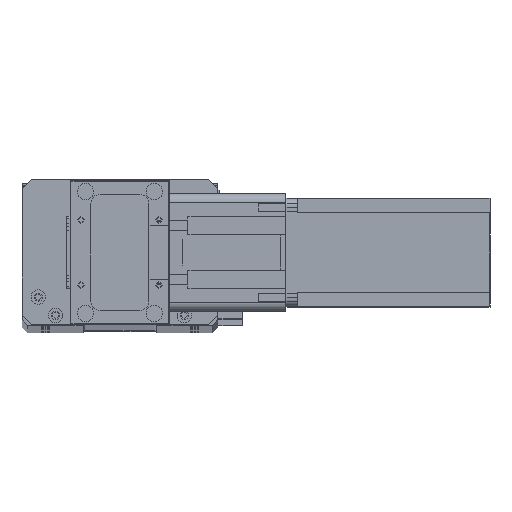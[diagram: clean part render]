
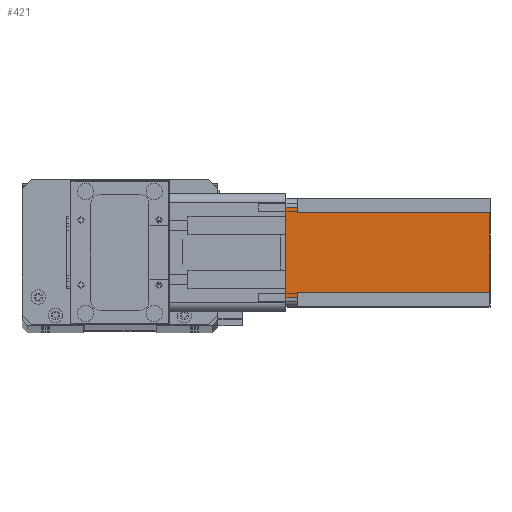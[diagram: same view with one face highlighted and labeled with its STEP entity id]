
A CAD part, top view. The second image highlights one B-rep face of the part: STEP entity #421.
In plain terms, the highlighted planar face has unit normal (0, 0, 1) as drawn and (0, 1, 0) by its records, which use the part's own axes.
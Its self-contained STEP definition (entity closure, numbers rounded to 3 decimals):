
#421 = ADVANCED_FACE ( 'NONE', ( #650 ), #4034, .T. ) ;
#650 = FACE_OUTER_BOUND ( 'NONE', #15040, .T. ) ;
#776 = DIRECTION ( 'NONE',  ( 0., 0., -1. ) ) ;
#1224 = CARTESIAN_POINT ( 'NONE',  ( 55., 60., -6.5 ) ) ;
#2756 = CARTESIAN_POINT ( 'NONE',  ( 52., 60., -6.5 ) ) ;
#2946 = DIRECTION ( 'NONE',  ( 0., 0., 1. ) ) ;
#3009 = ORIENTED_EDGE ( 'NONE', *, *, #17855, .F. ) ;
#3097 = CARTESIAN_POINT ( 'NONE',  ( 55., 60., -112.5 ) ) ;
#3140 = CARTESIAN_POINT ( 'NONE',  ( 0., 60., -112.5 ) ) ;
#3142 = CARTESIAN_POINT ( 'NONE',  ( 8., 60., -6.5 ) ) ;
#3594 = VECTOR ( 'NONE', #26627, 1000. ) ;
#4034 = PLANE ( 'NONE',  #10907 ) ;
#5376 = VERTEX_POINT ( 'NONE', #26394 ) ;
#5839 = DIRECTION ( 'NONE',  ( 0., 0., -1. ) ) ;
#6427 = VECTOR ( 'NONE', #29746, 1000. ) ;
#6450 = CARTESIAN_POINT ( 'NONE',  ( 52., 60., -6.5 ) ) ;
#6461 = LINE ( 'NONE', #22129, #12628 ) ;
#6904 = ORIENTED_EDGE ( 'NONE', *, *, #27283, .F. ) ;
#7791 = LINE ( 'NONE', #28537, #18714 ) ;
#8412 = DIRECTION ( 'NONE',  ( 0., 1., 0. ) ) ;
#8893 = CARTESIAN_POINT ( 'NONE',  ( 0., 60., -112.5 ) ) ;
#10008 = EDGE_CURVE ( 'NONE', #10367, #18753, #19665, .T. ) ;
#10222 = VECTOR ( 'NONE', #12820, 1000. ) ;
#10367 = VERTEX_POINT ( 'NONE', #21402 ) ;
#10485 = CARTESIAN_POINT ( 'NONE',  ( 5., 60., -6.5 ) ) ;
#10574 = ORIENTED_EDGE ( 'NONE', *, *, #13947, .F. ) ;
#10907 = AXIS2_PLACEMENT_3D ( 'NONE', #3140, #8412, #2946 ) ;
#10992 = VERTEX_POINT ( 'NONE', #2756 ) ;
#11197 = VERTEX_POINT ( 'NONE', #1224 ) ;
#11685 = CARTESIAN_POINT ( 'NONE',  ( 5., 60., 0. ) ) ;
#11870 = LINE ( 'NONE', #8893, #17368 ) ;
#11986 = EDGE_CURVE ( 'NONE', #18753, #15599, #7791, .T. ) ;
#12590 = LINE ( 'NONE', #6450, #6427 ) ;
#12628 = VECTOR ( 'NONE', #5839, 1000. ) ;
#12820 = DIRECTION ( 'NONE',  ( 0., 0., 1. ) ) ;
#13947 = EDGE_CURVE ( 'NONE', #17792, #10992, #28779, .T. ) ;
#15040 = EDGE_LOOP ( 'NONE', ( #27072, #24355, #3009, #10574, #21770, #6904, #22475, #27206 ) ) ;
#15599 = VERTEX_POINT ( 'NONE', #11685 ) ;
#16479 = EDGE_CURVE ( 'NONE', #5376, #15599, #23617, .T. ) ;
#16562 = VERTEX_POINT ( 'NONE', #17666 ) ;
#16955 = DIRECTION ( 'NONE',  ( 0., 0., 1. ) ) ;
#17066 = EDGE_CURVE ( 'NONE', #5376, #11197, #18459, .T. ) ;
#17270 = CARTESIAN_POINT ( 'NONE',  ( 0., 60., 0. ) ) ;
#17368 = VECTOR ( 'NONE', #20576, 1000. ) ;
#17666 = CARTESIAN_POINT ( 'NONE',  ( 8., 60., -112.5 ) ) ;
#17792 = VERTEX_POINT ( 'NONE', #24900 ) ;
#17855 = EDGE_CURVE ( 'NONE', #10992, #11197, #12590, .T. ) ;
#17897 = EDGE_CURVE ( 'NONE', #17792, #16562, #11870, .T. ) ;
#18459 = LINE ( 'NONE', #3097, #30083 ) ;
#18714 = VECTOR ( 'NONE', #16955, 1000. ) ;
#18753 = VERTEX_POINT ( 'NONE', #10485 ) ;
#19400 = DIRECTION ( 'NONE',  ( -1., 0., 0. ) ) ;
#19665 = LINE ( 'NONE', #3142, #26603 ) ;
#20576 = DIRECTION ( 'NONE',  ( -1., 0., 0. ) ) ;
#21402 = CARTESIAN_POINT ( 'NONE',  ( 8., 60., -6.5 ) ) ;
#21770 = ORIENTED_EDGE ( 'NONE', *, *, #17897, .T. ) ;
#22129 = CARTESIAN_POINT ( 'NONE',  ( 8., 60., -112.5 ) ) ;
#22475 = ORIENTED_EDGE ( 'NONE', *, *, #10008, .T. ) ;
#23617 = LINE ( 'NONE', #17270, #3594 ) ;
#24355 = ORIENTED_EDGE ( 'NONE', *, *, #17066, .T. ) ;
#24900 = CARTESIAN_POINT ( 'NONE',  ( 52., 60., -112.5 ) ) ;
#26394 = CARTESIAN_POINT ( 'NONE',  ( 55., 60., 0. ) ) ;
#26603 = VECTOR ( 'NONE', #19400, 1000. ) ;
#26627 = DIRECTION ( 'NONE',  ( -1., 0., 0. ) ) ;
#27072 = ORIENTED_EDGE ( 'NONE', *, *, #16479, .F. ) ;
#27206 = ORIENTED_EDGE ( 'NONE', *, *, #11986, .T. ) ;
#27283 = EDGE_CURVE ( 'NONE', #10367, #16562, #6461, .T. ) ;
#28537 = CARTESIAN_POINT ( 'NONE',  ( 5., 60., -112.5 ) ) ;
#28779 = LINE ( 'NONE', #29136, #10222 ) ;
#29136 = CARTESIAN_POINT ( 'NONE',  ( 52., 60., -112.5 ) ) ;
#29746 = DIRECTION ( 'NONE',  ( 1., 0., 0. ) ) ;
#30083 = VECTOR ( 'NONE', #776, 1000. ) ;
